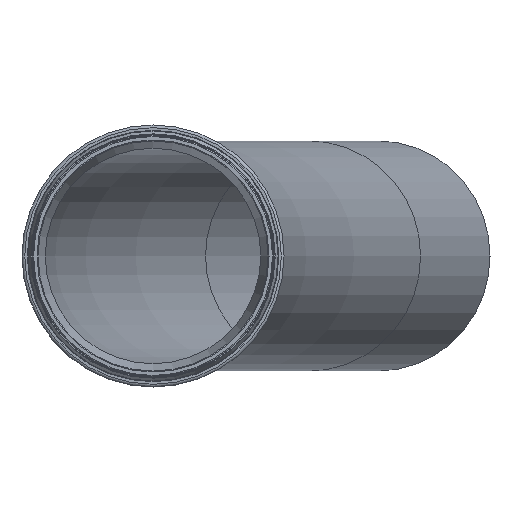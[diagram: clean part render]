
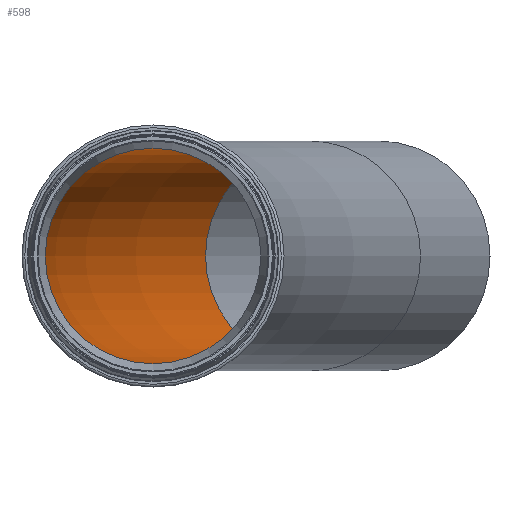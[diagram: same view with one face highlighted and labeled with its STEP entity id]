
A CAD part, left-side view. The second image highlights one B-rep face of the part: STEP entity #598.
In plain terms, the highlighted toroidal (fillet/blend) face has major radius 5000 mm and minor radius 117.3 mm.
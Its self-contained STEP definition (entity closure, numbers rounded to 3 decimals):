
#25=TOROIDAL_SURFACE('',#664,5000.,117.3);
#92=FACE_OUTER_BOUND('',#132,.T.);
#132=EDGE_LOOP('',(#410,#411,#412,#413));
#177=CIRCLE('',#665,117.3);
#178=CIRCLE('',#666,4882.7);
#179=CIRCLE('',#667,117.3);
#253=VERTEX_POINT('',#1036);
#254=VERTEX_POINT('',#1038);
#314=EDGE_CURVE('',#253,#253,#177,.T.);
#315=EDGE_CURVE('',#253,#254,#178,.T.);
#316=EDGE_CURVE('',#254,#254,#179,.T.);
#410=ORIENTED_EDGE('',*,*,#314,.T.);
#411=ORIENTED_EDGE('',*,*,#315,.T.);
#412=ORIENTED_EDGE('',*,*,#316,.T.);
#413=ORIENTED_EDGE('',*,*,#315,.F.);
#598=ADVANCED_FACE('',(#92),#25,.F.);
#664=AXIS2_PLACEMENT_3D('',#1035,#788,#789);
#665=AXIS2_PLACEMENT_3D('',#1037,#790,#791);
#666=AXIS2_PLACEMENT_3D('',#1039,#792,#793);
#667=AXIS2_PLACEMENT_3D('',#1040,#794,#795);
#788=DIRECTION('center_axis',(0.,0.,-1.));
#789=DIRECTION('ref_axis',(-1.,0.,0.));
#790=DIRECTION('center_axis',(-1.,0.,0.));
#791=DIRECTION('ref_axis',(0.,0.,1.));
#792=DIRECTION('center_axis',(0.,0.,-1.));
#793=DIRECTION('ref_axis',(-1.,0.,0.));
#794=DIRECTION('center_axis',(0.966,-0.259,0.));
#795=DIRECTION('ref_axis',(0.259,0.966,0.));
#1035=CARTESIAN_POINT('Origin',(512.266,-5000.,0.));
#1036=CARTESIAN_POINT('',(512.266,-117.3,0.));
#1037=CARTESIAN_POINT('Origin',(512.266,0.,0.));
#1038=CARTESIAN_POINT('',(1776.002,-283.674,0.));
#1039=CARTESIAN_POINT('Origin',(512.266,-5000.,0.));
#1040=CARTESIAN_POINT('Origin',(1806.361,-170.371,0.));
